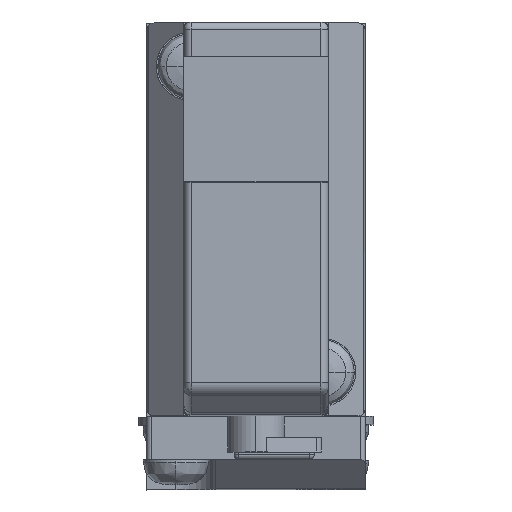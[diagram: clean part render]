
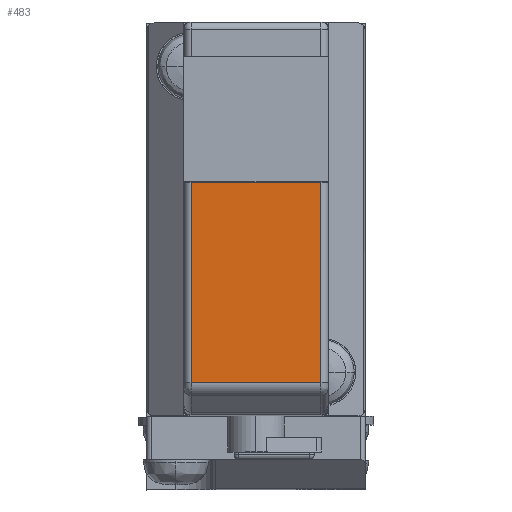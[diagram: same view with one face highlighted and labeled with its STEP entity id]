
A CAD part, top view. The second image highlights one B-rep face of the part: STEP entity #483.
In plain terms, the highlighted planar face has unit normal (0, 0, 1).
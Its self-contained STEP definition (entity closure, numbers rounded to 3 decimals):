
#483=ADVANCED_FACE('',(#2791),#2790,.F.);
#2790=PLANE('',#4799);
#2791=FACE_OUTER_BOUND('',#4800,.T.);
#4796=CARTESIAN_POINT('',(5.34,-26.133,27.4));
#4797=DIRECTION('',(0.,0.,-1.));
#4798=DIRECTION('',(-1.,0.,0.));
#4799=AXIS2_PLACEMENT_3D('',#4796,#4797,#4798);
#4800=EDGE_LOOP('',(#6240,#6241,#6242,#6243));
#6240=ORIENTED_EDGE('',*,*,#6923,.F.);
#6241=ORIENTED_EDGE('',*,*,#6980,.T.);
#6242=ORIENTED_EDGE('',*,*,#7068,.T.);
#6243=ORIENTED_EDGE('',*,*,#7003,.T.);
#6923=EDGE_CURVE('',#9916,#9923,#9924,.T.);
#6980=EDGE_CURVE('',#9916,#10305,#10312,.T.);
#7003=EDGE_CURVE('',#10443,#9923,#10462,.T.);
#7068=EDGE_CURVE('',#10305,#10443,#10888,.T.);
#9916=VERTEX_POINT('',#13325);
#9923=VERTEX_POINT('',#13330);
#9924=LINE('',#13331,#13332);
#10305=VERTEX_POINT('',#13569);
#10312=LINE('',#13574,#13575);
#10443=VERTEX_POINT('',#13657);
#10462=LINE('',#13670,#13671);
#10888=LINE('',#13915,#13916);
#13325=CARTESIAN_POINT('',(-4.45,-11.,27.4));
#13330=CARTESIAN_POINT('',(4.45,-11.,27.4));
#13331=CARTESIAN_POINT('',(-4.45,-11.,27.4));
#13332=VECTOR('',#13333,8.9);
#13333=DIRECTION('',(1.,0.,0.));
#13569=CARTESIAN_POINT('',(-4.45,-24.758,27.4));
#13574=CARTESIAN_POINT('',(-4.45,-11.,27.4));
#13575=VECTOR('',#13576,13.758);
#13576=DIRECTION('',(0.,-1.,0.));
#13657=CARTESIAN_POINT('',(4.45,-24.758,27.4));
#13670=CARTESIAN_POINT('',(4.45,-24.758,27.4));
#13671=VECTOR('',#13672,13.758);
#13672=DIRECTION('',(0.,1.,0.));
#13915=CARTESIAN_POINT('',(-4.45,-24.758,27.4));
#13916=VECTOR('',#13917,8.9);
#13917=DIRECTION('',(1.,0.,0.));
